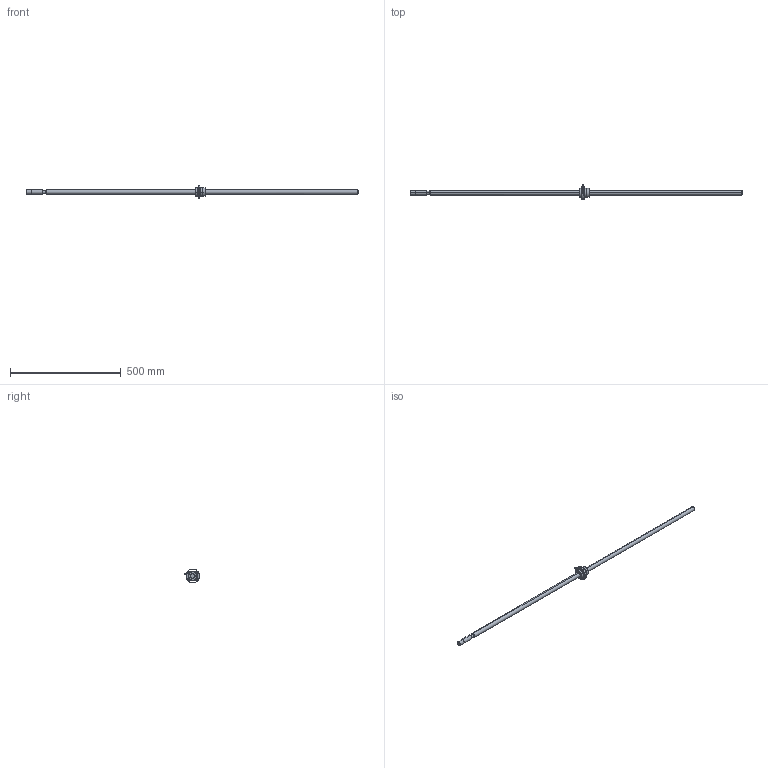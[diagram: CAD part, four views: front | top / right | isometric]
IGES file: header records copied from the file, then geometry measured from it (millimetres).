
Global section: file name: No Iges File Name specified; native system: AutoDesk Inventor R10; preprocessor: AutoDesk Inventor Iges Exporter R10; author: No Author specified; organization: No Organization specified; date: 20101224.134419; units: millimetre
Bounding box: 1500 x 69.81 x 61.97 mm (x, y, z)
Surface area: 109735.3 mm2 (no closed solid volume)
Topology: 0 solids, 0 shells, 80 faces, 487 edges, 483 vertices
Faces by surface type: bspline 80
